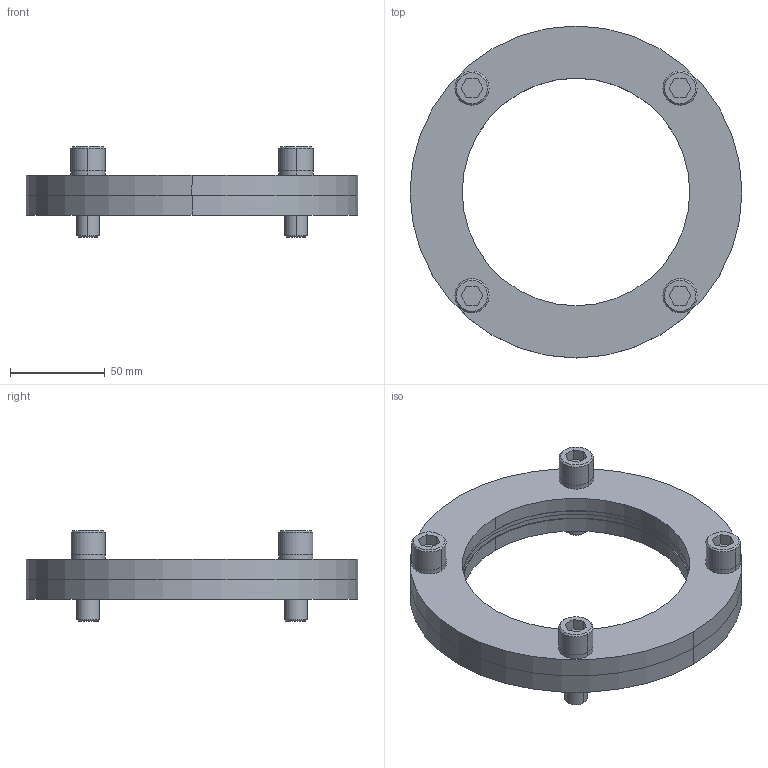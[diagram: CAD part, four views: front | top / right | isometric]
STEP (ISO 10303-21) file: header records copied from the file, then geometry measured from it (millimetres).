
FILE_DESCRIPTION(/* description */ (''),/* implementation_level */ '2;1');
FILE_NAME(/* name */ '3d_kf120_04239_r00.stp',/* time_stamp */ '2011-01-10T14:14:23+09:00',/* author */ ('MISUMI'),/* organization */ (''),/* preprocessor_version */ 'ST-DEVELOPER v11',/* originating_system */ 'UGS - NX 5.0',/* authorisation */ '');
FILE_SCHEMA (('CONFIG_CONTROL_DESIGN'));
Length unit declared in the file: millimetre
Products named in the file (1): 3d_kf120_04239_r00
Bounding box: 175 x 175 x 47.5 mm (x, y, z)
Volume: 281465.6 mm3; surface area: 84520.2 mm2
Topology: 10 solids, 10 shells, 130 faces, 284 edges, 184 vertices
Faces by surface type: cylinder 60, plane 54, cone 16
Entity records: 3720 total; most frequent: DIRECTION 682, CARTESIAN_POINT 599, ORIENTED_EDGE 568, EDGE_CURVE 284, AXIS2_PLACEMENT_3D 267, VERTEX_POINT 184, EDGE_LOOP 168, LINE 148
